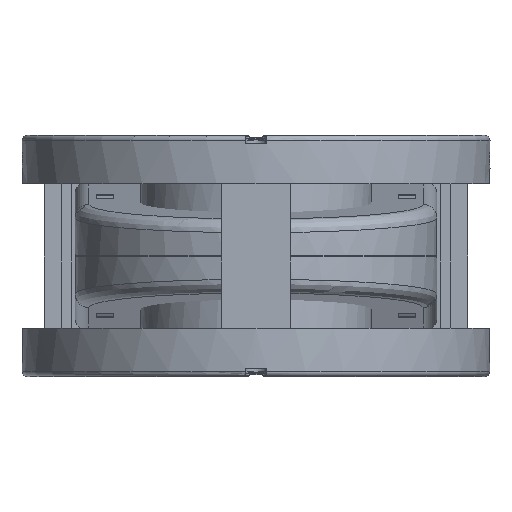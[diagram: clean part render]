
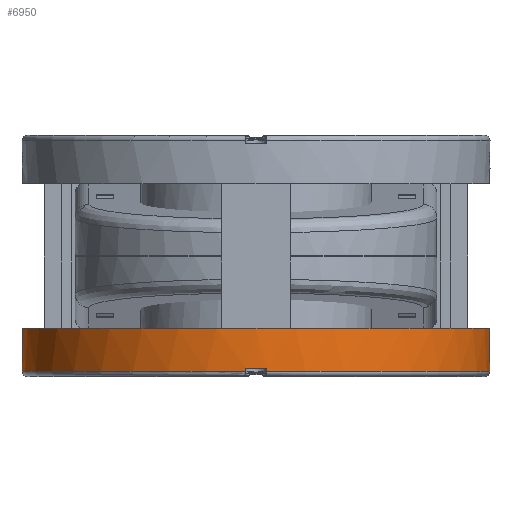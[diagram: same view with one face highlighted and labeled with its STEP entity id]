
A CAD part, front view. The second image highlights one B-rep face of the part: STEP entity #6950.
In plain terms, the highlighted cylindrical face has radius 67.9 mm (diameter 135.8 mm), a full revolution.
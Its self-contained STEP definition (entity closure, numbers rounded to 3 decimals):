
#3481=CIRCLE('',#26348,67.9);
#3482=CIRCLE('',#26350,67.9);
#3483=CIRCLE('',#26351,67.9);
#3484=CIRCLE('',#26352,67.9);
#3485=CIRCLE('',#26353,67.9);
#6950=ADVANCED_FACE('',(#8627,#8628),#8165,.T.);
#8165=CYLINDRICAL_SURFACE('',#26354,67.9);
#8627=FACE_BOUND('',#9581,.T.);
#8628=FACE_BOUND('',#9582,.T.);
#9581=EDGE_LOOP('',(#14664,#14665));
#9582=EDGE_LOOP('',(#14666,#14667,#14668,#14669,#14670,#14671,#14672,#14673));
#11297=LINE('',#35618,#12660);
#11298=LINE('',#35622,#12661);
#11299=LINE('',#35626,#12662);
#11300=LINE('',#35630,#12663);
#12660=VECTOR('',#28991,1.);
#12661=VECTOR('',#28994,1.);
#12662=VECTOR('',#28997,1.);
#12663=VECTOR('',#29000,1.);
#14664=ORIENTED_EDGE('',*,*,#23137,.F.);
#14665=ORIENTED_EDGE('',*,*,#23138,.T.);
#14666=ORIENTED_EDGE('',*,*,#23139,.F.);
#14667=ORIENTED_EDGE('',*,*,#23140,.T.);
#14668=ORIENTED_EDGE('',*,*,#23141,.T.);
#14669=ORIENTED_EDGE('',*,*,#23142,.T.);
#14670=ORIENTED_EDGE('',*,*,#23143,.F.);
#14671=ORIENTED_EDGE('',*,*,#23144,.T.);
#14672=ORIENTED_EDGE('',*,*,#23145,.T.);
#14673=ORIENTED_EDGE('',*,*,#23146,.T.);
#20702=VERTEX_POINT('',#35612);
#20703=VERTEX_POINT('',#35613);
#20704=VERTEX_POINT('',#35616);
#20705=VERTEX_POINT('',#35617);
#20706=VERTEX_POINT('',#35619);
#20707=VERTEX_POINT('',#35621);
#20708=VERTEX_POINT('',#35623);
#20709=VERTEX_POINT('',#35625);
#20710=VERTEX_POINT('',#35627);
#20711=VERTEX_POINT('',#35629);
#23137=EDGE_CURVE('',#20702,#20703,#3481,.T.);
#23138=EDGE_CURVE('',#20702,#20703,#26028,.T.);
#23139=EDGE_CURVE('',#20704,#20705,#3482,.T.);
#23140=EDGE_CURVE('',#20704,#20706,#11297,.T.);
#23141=EDGE_CURVE('',#20706,#20707,#3483,.T.);
#23142=EDGE_CURVE('',#20707,#20708,#11298,.T.);
#23143=EDGE_CURVE('',#20709,#20708,#3484,.T.);
#23144=EDGE_CURVE('',#20709,#20710,#11299,.T.);
#23145=EDGE_CURVE('',#20710,#20711,#3485,.T.);
#23146=EDGE_CURVE('',#20711,#20705,#11300,.T.);
#26028=ELLIPSE('',#26349,68.159,67.9);
#26348=AXIS2_PLACEMENT_3D('',#35611,#28985,#28986);
#26349=AXIS2_PLACEMENT_3D('',#35614,#28987,#28988);
#26350=AXIS2_PLACEMENT_3D('',#35615,#28989,#28990);
#26351=AXIS2_PLACEMENT_3D('',#35620,#28992,#28993);
#26352=AXIS2_PLACEMENT_3D('',#35624,#28995,#28996);
#26353=AXIS2_PLACEMENT_3D('',#35628,#28998,#28999);
#26354=AXIS2_PLACEMENT_3D('',#35631,#29001,#29002);
#28985=DIRECTION('',(1.,0.,0.));
#28986=DIRECTION('',(0.,1.,0.));
#28987=DIRECTION('',(-0.996,-0.087,0.));
#28988=DIRECTION('',(0.087,-0.996,0.));
#28989=DIRECTION('',(-1.,0.,0.));
#28990=DIRECTION('',(0.,0.,-1.));
#28991=DIRECTION('',(-1.,0.,0.));
#28992=DIRECTION('',(1.,0.,0.));
#28993=DIRECTION('',(0.,1.,0.));
#28994=DIRECTION('',(1.,0.,0.));
#28995=DIRECTION('',(-1.,0.,0.));
#28996=DIRECTION('',(0.,0.,-1.));
#28997=DIRECTION('',(-1.,0.,0.));
#28998=DIRECTION('',(1.,0.,0.));
#28999=DIRECTION('',(0.,1.,0.));
#29000=DIRECTION('',(1.,0.,0.));
#29001=DIRECTION('',(1.,0.,0.));
#29002=DIRECTION('',(0.,1.,0.));
#35611=CARTESIAN_POINT('',(14.,0.,0.));
#35612=CARTESIAN_POINT('',(14.,61.784,28.163));
#35613=CARTESIAN_POINT('',(14.,61.784,-28.163));
#35614=CARTESIAN_POINT('',(19.405,0.,0.));
#35615=CARTESIAN_POINT('',(2.5,0.,0.));
#35616=CARTESIAN_POINT('',(2.5,67.834,3.));
#35617=CARTESIAN_POINT('',(2.5,67.834,-3.));
#35618=CARTESIAN_POINT('',(21.4,67.834,3.));
#35619=CARTESIAN_POINT('',(1.5,67.834,3.));
#35620=CARTESIAN_POINT('',(1.5,0.,0.));
#35621=CARTESIAN_POINT('',(1.5,-67.834,3.));
#35622=CARTESIAN_POINT('',(21.4,-67.834,3.));
#35623=CARTESIAN_POINT('',(2.5,-67.834,3.));
#35624=CARTESIAN_POINT('',(2.5,0.,0.));
#35625=CARTESIAN_POINT('',(2.5,-67.834,-3.));
#35626=CARTESIAN_POINT('',(21.4,-67.834,-3.));
#35627=CARTESIAN_POINT('',(1.5,-67.834,-3.));
#35628=CARTESIAN_POINT('',(1.5,0.,0.));
#35629=CARTESIAN_POINT('',(1.5,67.834,-3.));
#35630=CARTESIAN_POINT('',(21.4,67.834,-3.));
#35631=CARTESIAN_POINT('',(21.4,0.,0.));
